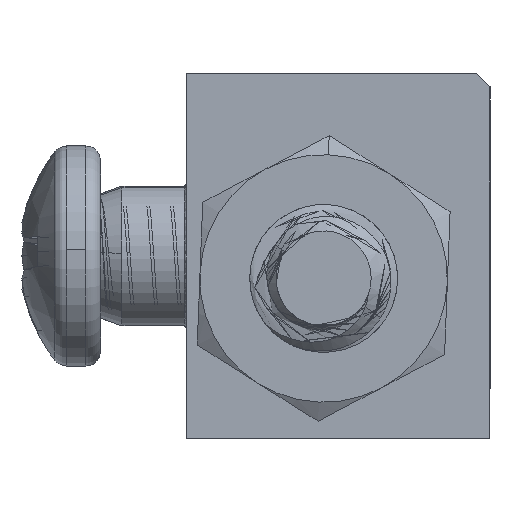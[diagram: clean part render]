
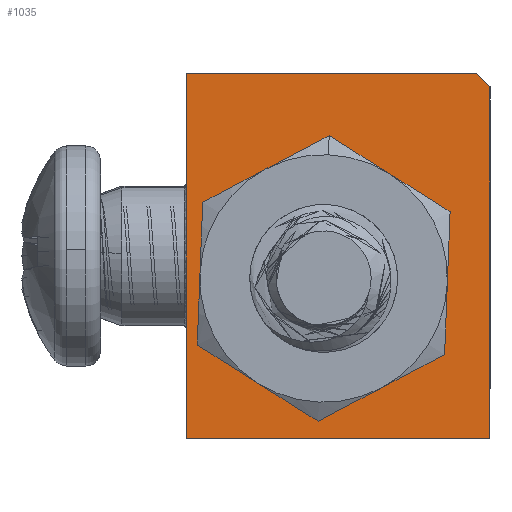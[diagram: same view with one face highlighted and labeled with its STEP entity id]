
A CAD part, front view. The second image highlights one B-rep face of the part: STEP entity #1035.
In plain terms, the highlighted planar face has unit normal (0, -1, 0) as drawn and (1, 0, 0) by its records, which use the part's own axes.
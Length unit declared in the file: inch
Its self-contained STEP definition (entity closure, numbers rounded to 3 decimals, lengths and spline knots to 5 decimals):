
#132 = AXIS2_PLACEMENT_3D ( 'NONE', #8306, #1436, #4397 ) ;
#243 = VECTOR ( 'NONE', #5091, 39.37008 ) ;
#1035 = ADVANCED_FACE ( 'NONE', ( #1716, #16530 ), #15298, .T. ) ;
#1436 = DIRECTION ( 'NONE',  ( 1., 0., 0. ) ) ;
#1603 = CARTESIAN_POINT ( 'NONE',  ( 0.32917, 0.0381, 0.115 ) ) ;
#1716 = FACE_BOUND ( 'NONE', #7705, .T. ) ;
#1790 = ORIENTED_EDGE ( 'NONE', *, *, #11503, .T. ) ;
#1813 = AXIS2_PLACEMENT_3D ( 'NONE', #9839, #12602, #7246 ) ;
#2370 = ORIENTED_EDGE ( 'NONE', *, *, #9829, .T. ) ;
#2862 = ORIENTED_EDGE ( 'NONE', *, *, #13531, .F. ) ;
#2979 = CARTESIAN_POINT ( 'NONE',  ( 0.32917, -0.2381, 0.115 ) ) ;
#2992 = CARTESIAN_POINT ( 'NONE',  ( 0.32917, -0.2331, 0.11 ) ) ;
#3104 = VERTEX_POINT ( 'NONE', #1603 ) ;
#3288 = CIRCLE ( 'NONE', #132, 0.06 ) ;
#3658 = CARTESIAN_POINT ( 'NONE',  ( 0.32917, -0.2381, -0.115 ) ) ;
#3836 = EDGE_CURVE ( 'NONE', #5147, #3104, #4022, .T. ) ;
#4022 = LINE ( 'NONE', #5882, #6043 ) ;
#4142 = DIRECTION ( 'NONE',  ( 1., 0., 0. ) ) ;
#4397 = DIRECTION ( 'NONE',  ( 0., 0., -1. ) ) ;
#4436 = CARTESIAN_POINT ( 'NONE',  ( 0.32917, -0.2381, 0.115 ) ) ;
#4553 = VERTEX_POINT ( 'NONE', #14196 ) ;
#5091 = DIRECTION ( 'NONE',  ( 0., 0., -1. ) ) ;
#5147 = VERTEX_POINT ( 'NONE', #11401 ) ;
#5240 = EDGE_LOOP ( 'NONE', ( #11627, #1790, #2370, #15899, #17318 ) ) ;
#5834 = LINE ( 'NONE', #13031, #243 ) ;
#5879 = EDGE_CURVE ( 'NONE', #10745, #4553, #3288, .T. ) ;
#5882 = CARTESIAN_POINT ( 'NONE',  ( 0.32917, -0.2381, 0.115 ) ) ;
#5949 = DIRECTION ( 'NONE',  ( 0., 0., -1. ) ) ;
#6043 = VECTOR ( 'NONE', #9878, 39.37008 ) ;
#7246 = DIRECTION ( 'NONE',  ( 0., 0., -1. ) ) ;
#7483 = LINE ( 'NONE', #3658, #12359 ) ;
#7705 = EDGE_LOOP ( 'NONE', ( #16340, #2862 ) ) ;
#7737 = AXIS2_PLACEMENT_3D ( 'NONE', #2979, #4142, #16446 ) ;
#8306 = CARTESIAN_POINT ( 'NONE',  ( 0.32917, -0.083, -0.011 ) ) ;
#9085 = DIRECTION ( 'NONE',  ( 0., 1., 0. ) ) ;
#9465 = VECTOR ( 'NONE', #5949, 39.37008 ) ;
#9829 = EDGE_CURVE ( 'NONE', #12267, #10968, #15578, .T. ) ;
#9839 = CARTESIAN_POINT ( 'NONE',  ( 0.32917, -0.083, -0.011 ) ) ;
#9878 = DIRECTION ( 'NONE',  ( 0., 1., 0. ) ) ;
#10002 = CARTESIAN_POINT ( 'NONE',  ( 0.32917, -0.083, -0.071 ) ) ;
#10745 = VERTEX_POINT ( 'NONE', #10002 ) ;
#10937 = DIRECTION ( 'NONE',  ( 0., -0.707, -0.707 ) ) ;
#10968 = VERTEX_POINT ( 'NONE', #17032 ) ;
#11235 = CIRCLE ( 'NONE', #1813, 0.06 ) ;
#11401 = CARTESIAN_POINT ( 'NONE',  ( 0.32917, -0.2281, 0.115 ) ) ;
#11503 = EDGE_CURVE ( 'NONE', #5147, #12267, #16376, .T. ) ;
#11627 = ORIENTED_EDGE ( 'NONE', *, *, #3836, .F. ) ;
#12267 = VERTEX_POINT ( 'NONE', #15975 ) ;
#12359 = VECTOR ( 'NONE', #9085, 39.37008 ) ;
#12449 = VERTEX_POINT ( 'NONE', #13383 ) ;
#12602 = DIRECTION ( 'NONE',  ( 1., 0., 0. ) ) ;
#12839 = EDGE_CURVE ( 'NONE', #10968, #12449, #7483, .T. ) ;
#13031 = CARTESIAN_POINT ( 'NONE',  ( 0.32917, 0.0381, -0.115 ) ) ;
#13383 = CARTESIAN_POINT ( 'NONE',  ( 0.32917, 0.0381, -0.115 ) ) ;
#13531 = EDGE_CURVE ( 'NONE', #4553, #10745, #11235, .T. ) ;
#14196 = CARTESIAN_POINT ( 'NONE',  ( 0.32917, -0.083, 0.049 ) ) ;
#15298 = PLANE ( 'NONE',  #7737 ) ;
#15475 = VECTOR ( 'NONE', #10937, 39.37008 ) ;
#15578 = LINE ( 'NONE', #4436, #9465 ) ;
#15899 = ORIENTED_EDGE ( 'NONE', *, *, #12839, .T. ) ;
#15975 = CARTESIAN_POINT ( 'NONE',  ( 0.32917, -0.2381, 0.105 ) ) ;
#16218 = EDGE_CURVE ( 'NONE', #3104, #12449, #5834, .T. ) ;
#16340 = ORIENTED_EDGE ( 'NONE', *, *, #5879, .F. ) ;
#16376 = LINE ( 'NONE', #2992, #15475 ) ;
#16446 = DIRECTION ( 'NONE',  ( 0., 0., -1. ) ) ;
#16530 = FACE_OUTER_BOUND ( 'NONE', #5240, .T. ) ;
#17032 = CARTESIAN_POINT ( 'NONE',  ( 0.32917, -0.2381, -0.115 ) ) ;
#17318 = ORIENTED_EDGE ( 'NONE', *, *, #16218, .F. ) ;
